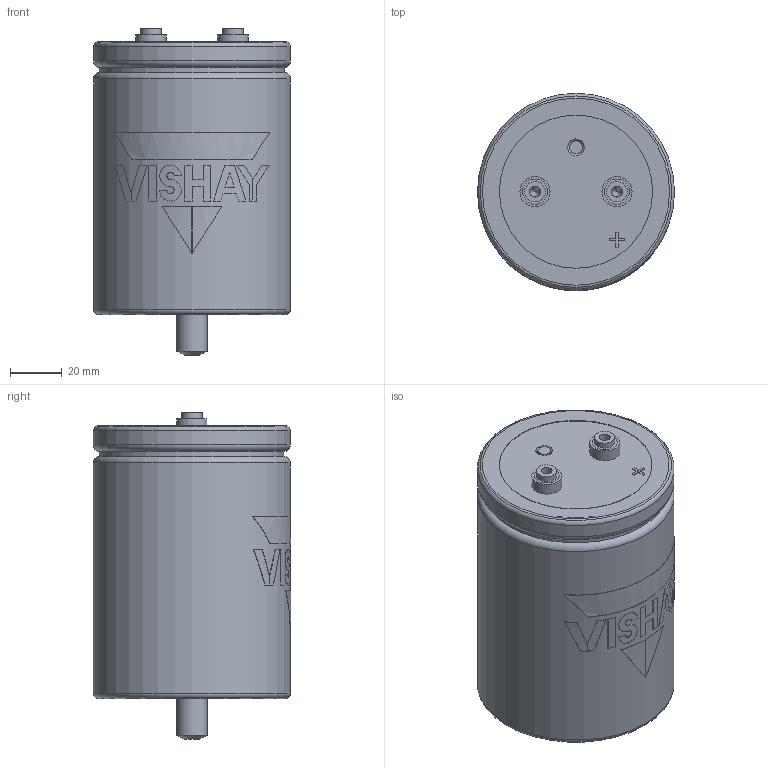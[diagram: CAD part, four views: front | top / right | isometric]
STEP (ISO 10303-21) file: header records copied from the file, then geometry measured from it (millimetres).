
FILE_DESCRIPTION(('FreeCAD Model'),'2;1');
FILE_NAME('C:/Users/tvandesteeg/Documents/Documents/FreeCAD/Stepfiles/ST capacitors/STB_HP_M5_76x105.step','2020-07-02T17:26:13',('Author'),(''), 'Open CASCADE STEP processor 7.3','FreeCAD','Unknown');
FILE_SCHEMA(('AUTOMOTIVE_DESIGN { 1 0 10303 214 1 1 1 1 }'));
Length unit declared in the file: millimetre
Products named in the file (7): VentBody; TerminalBody_(Mirror_#2); TerminalBody; STBBottomBody; Disc; LogoPrint; CanBody
Bounding box: 76.4 x 76.5 x 126.7 mm (x, y, z)
Volume: 478334.7 mm3; surface area: 60354.7 mm2
Topology: 17 solids, 17 shells, 152 faces, 318 edges, 209 vertices
Faces by surface type: plane 94, cylinder 49, torus 5, cone 4
Full cylindrical faces by diameter (mm): 4.2 x2, 5 x2, 7.9 x2, 9.8 x6, 11.7 x2, 11.966 x1, 59.422 x3, 68.8 x2, 71.4 x1, 76.4 x2
Entity records: 10788 total; most frequent: CARTESIAN_POINT 3378, DIRECTION 1228, ORIENTED_EDGE 632, PCURVE 632, DEFINITIONAL_REPRESENTATION 632, LINE 542, VECTOR 542, EDGE_CURVE 316
